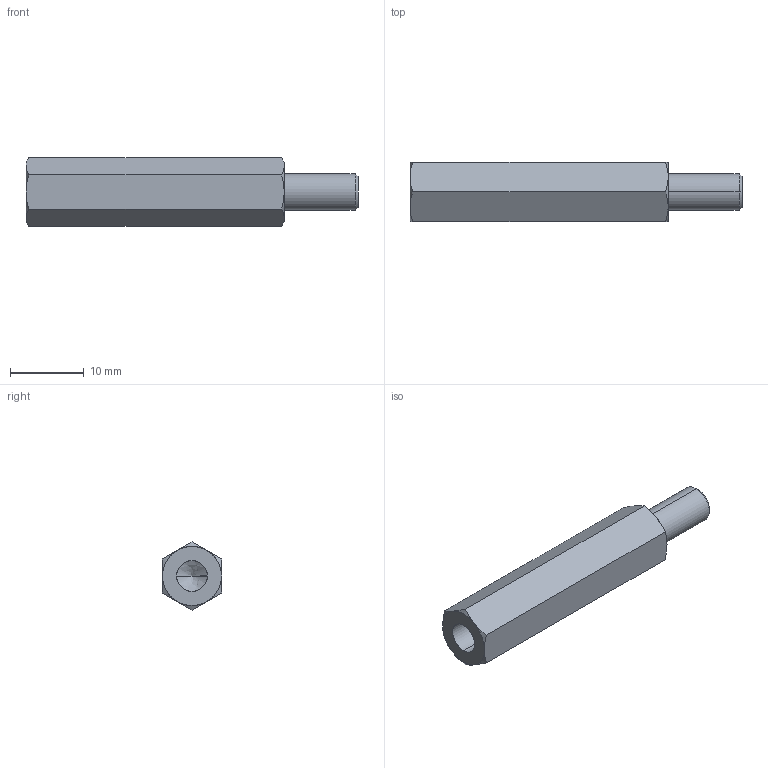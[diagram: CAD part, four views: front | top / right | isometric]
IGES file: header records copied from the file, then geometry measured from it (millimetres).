
Start section: SolidWorks IGES file using analytic representation for surfaces
Global section: file name: C:\Users\render1\Desktop\P0185_IGES\P0185.05-35.igs; native system: SolidWorks 2009; preprocessor: SolidWorks 2009; author: render1; date: 130627.112550; units: millimetre
Bounding box: 45 x 8 x 9.24 mm (x, y, z)
Surface area: 1362.9 mm2 (no closed solid volume)
Topology: 0 solids, 0 shells, 29 faces, 324 edges, 322 vertices
Faces by surface type: revolution 20, bspline 9
